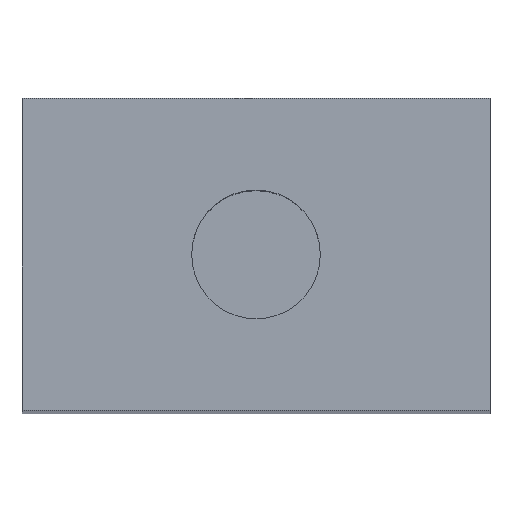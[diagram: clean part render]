
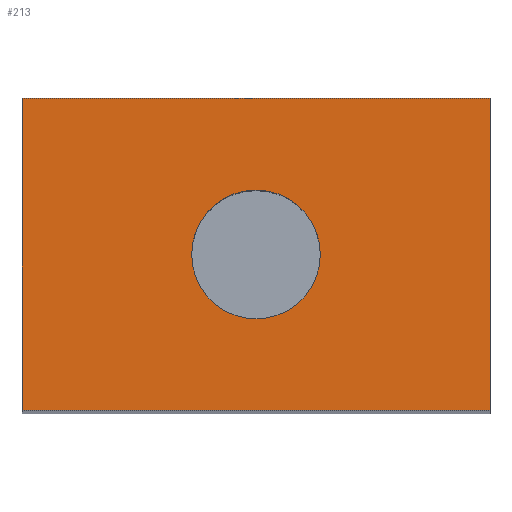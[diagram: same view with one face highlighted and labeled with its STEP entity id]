
A CAD part, top view. The second image highlights one B-rep face of the part: STEP entity #213.
In plain terms, the highlighted planar face has unit normal (0, 0, 1).
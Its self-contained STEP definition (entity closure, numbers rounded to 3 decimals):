
#24 = VERTEX_POINT('',#25);
#25 = CARTESIAN_POINT('',(-14.,22.8,53.2));
#32 = PLANE('',#33);
#33 = AXIS2_PLACEMENT_3D('',#34,#35,#36);
#34 = CARTESIAN_POINT('',(-14.,22.8,8.));
#35 = DIRECTION('',(1.,0.,0.));
#36 = DIRECTION('',(0.,0.,1.));
#44 = PLANE('',#45);
#45 = AXIS2_PLACEMENT_3D('',#46,#47,#48);
#46 = CARTESIAN_POINT('',(-14.,22.8,8.));
#47 = DIRECTION('',(0.,1.,0.));
#48 = DIRECTION('',(0.,0.,1.));
#85 = VERTEX_POINT('',#86);
#86 = CARTESIAN_POINT('',(-14.,30.8,53.2));
#100 = PLANE('',#101);
#101 = AXIS2_PLACEMENT_3D('',#102,#103,#104);
#102 = CARTESIAN_POINT('',(-14.,30.8,8.));
#103 = DIRECTION('',(0.,1.,0.));
#104 = DIRECTION('',(0.,0.,1.));
#112 = EDGE_CURVE('',#24,#85,#113,.T.);
#113 = SURFACE_CURVE('',#114,(#118,#125),.PCURVE_S1.);
#114 = LINE('',#115,#116);
#115 = CARTESIAN_POINT('',(-14.,22.8,53.2));
#116 = VECTOR('',#117,1.);
#117 = DIRECTION('',(0.,1.,0.));
#118 = PCURVE('',#32,#119);
#119 = DEFINITIONAL_REPRESENTATION('',(#120),#124);
#120 = LINE('',#121,#122);
#121 = CARTESIAN_POINT('',(45.2,0.));
#122 = VECTOR('',#123,1.);
#123 = DIRECTION('',(0.,-1.));
#124 = ( GEOMETRIC_REPRESENTATION_CONTEXT(2) 
PARAMETRIC_REPRESENTATION_CONTEXT() REPRESENTATION_CONTEXT('2D SPACE',''
  ) );
#125 = PCURVE('',#126,#131);
#126 = PLANE('',#127);
#127 = AXIS2_PLACEMENT_3D('',#128,#129,#130);
#128 = CARTESIAN_POINT('',(-14.,22.8,53.2));
#129 = DIRECTION('',(0.,0.,1.));
#130 = DIRECTION('',(1.,0.,0.));
#131 = DEFINITIONAL_REPRESENTATION('',(#132),#136);
#132 = LINE('',#133,#134);
#133 = CARTESIAN_POINT('',(0.,0.));
#134 = VECTOR('',#135,1.);
#135 = DIRECTION('',(0.,1.));
#136 = ( GEOMETRIC_REPRESENTATION_CONTEXT(2) 
PARAMETRIC_REPRESENTATION_CONTEXT() REPRESENTATION_CONTEXT('2D SPACE',''
  ) );
#165 = EDGE_CURVE('',#24,#166,#168,.T.);
#166 = VERTEX_POINT('',#167);
#167 = CARTESIAN_POINT('',(-2.,22.8,53.2));
#168 = SURFACE_CURVE('',#169,(#173,#180),.PCURVE_S1.);
#169 = LINE('',#170,#171);
#170 = CARTESIAN_POINT('',(-14.,22.8,53.2));
#171 = VECTOR('',#172,1.);
#172 = DIRECTION('',(1.,0.,0.));
#173 = PCURVE('',#44,#174);
#174 = DEFINITIONAL_REPRESENTATION('',(#175),#179);
#175 = LINE('',#176,#177);
#176 = CARTESIAN_POINT('',(45.2,0.));
#177 = VECTOR('',#178,1.);
#178 = DIRECTION('',(0.,1.));
#179 = ( GEOMETRIC_REPRESENTATION_CONTEXT(2) 
PARAMETRIC_REPRESENTATION_CONTEXT() REPRESENTATION_CONTEXT('2D SPACE',''
  ) );
#180 = PCURVE('',#126,#181);
#181 = DEFINITIONAL_REPRESENTATION('',(#182),#186);
#182 = LINE('',#183,#184);
#183 = CARTESIAN_POINT('',(0.,0.));
#184 = VECTOR('',#185,1.);
#185 = DIRECTION('',(1.,0.));
#186 = ( GEOMETRIC_REPRESENTATION_CONTEXT(2) 
PARAMETRIC_REPRESENTATION_CONTEXT() REPRESENTATION_CONTEXT('2D SPACE',''
  ) );
#202 = PLANE('',#203);
#203 = AXIS2_PLACEMENT_3D('',#204,#205,#206);
#204 = CARTESIAN_POINT('',(-2.,22.8,8.));
#205 = DIRECTION('',(1.,0.,0.));
#206 = DIRECTION('',(0.,0.,1.));
#213 = ADVANCED_FACE('',(#214,#262),#126,.T.);
#214 = FACE_BOUND('',#215,.T.);
#215 = EDGE_LOOP('',(#216,#217,#218,#241));
#216 = ORIENTED_EDGE('',*,*,#112,.F.);
#217 = ORIENTED_EDGE('',*,*,#165,.T.);
#218 = ORIENTED_EDGE('',*,*,#219,.T.);
#219 = EDGE_CURVE('',#166,#220,#222,.T.);
#220 = VERTEX_POINT('',#221);
#221 = CARTESIAN_POINT('',(-2.,30.8,53.2));
#222 = SURFACE_CURVE('',#223,(#227,#234),.PCURVE_S1.);
#223 = LINE('',#224,#225);
#224 = CARTESIAN_POINT('',(-2.,22.8,53.2));
#225 = VECTOR('',#226,1.);
#226 = DIRECTION('',(0.,1.,0.));
#227 = PCURVE('',#126,#228);
#228 = DEFINITIONAL_REPRESENTATION('',(#229),#233);
#229 = LINE('',#230,#231);
#230 = CARTESIAN_POINT('',(12.,0.));
#231 = VECTOR('',#232,1.);
#232 = DIRECTION('',(0.,1.));
#233 = ( GEOMETRIC_REPRESENTATION_CONTEXT(2) 
PARAMETRIC_REPRESENTATION_CONTEXT() REPRESENTATION_CONTEXT('2D SPACE',''
  ) );
#234 = PCURVE('',#202,#235);
#235 = DEFINITIONAL_REPRESENTATION('',(#236),#240);
#236 = LINE('',#237,#238);
#237 = CARTESIAN_POINT('',(45.2,0.));
#238 = VECTOR('',#239,1.);
#239 = DIRECTION('',(0.,-1.));
#240 = ( GEOMETRIC_REPRESENTATION_CONTEXT(2) 
PARAMETRIC_REPRESENTATION_CONTEXT() REPRESENTATION_CONTEXT('2D SPACE',''
  ) );
#241 = ORIENTED_EDGE('',*,*,#242,.F.);
#242 = EDGE_CURVE('',#85,#220,#243,.T.);
#243 = SURFACE_CURVE('',#244,(#248,#255),.PCURVE_S1.);
#244 = LINE('',#245,#246);
#245 = CARTESIAN_POINT('',(-14.,30.8,53.2));
#246 = VECTOR('',#247,1.);
#247 = DIRECTION('',(1.,0.,0.));
#248 = PCURVE('',#126,#249);
#249 = DEFINITIONAL_REPRESENTATION('',(#250),#254);
#250 = LINE('',#251,#252);
#251 = CARTESIAN_POINT('',(0.,8.));
#252 = VECTOR('',#253,1.);
#253 = DIRECTION('',(1.,0.));
#254 = ( GEOMETRIC_REPRESENTATION_CONTEXT(2) 
PARAMETRIC_REPRESENTATION_CONTEXT() REPRESENTATION_CONTEXT('2D SPACE',''
  ) );
#255 = PCURVE('',#100,#256);
#256 = DEFINITIONAL_REPRESENTATION('',(#257),#261);
#257 = LINE('',#258,#259);
#258 = CARTESIAN_POINT('',(45.2,0.));
#259 = VECTOR('',#260,1.);
#260 = DIRECTION('',(0.,1.));
#261 = ( GEOMETRIC_REPRESENTATION_CONTEXT(2) 
PARAMETRIC_REPRESENTATION_CONTEXT() REPRESENTATION_CONTEXT('2D SPACE',''
  ) );
#262 = FACE_BOUND('',#263,.T.);
#263 = EDGE_LOOP('',(#264));
#264 = ORIENTED_EDGE('',*,*,#265,.F.);
#265 = EDGE_CURVE('',#266,#266,#268,.T.);
#266 = VERTEX_POINT('',#267);
#267 = CARTESIAN_POINT('',(-6.35,26.8,53.2));
#268 = SURFACE_CURVE('',#269,(#274,#281),.PCURVE_S1.);
#269 = CIRCLE('',#270,1.65);
#270 = AXIS2_PLACEMENT_3D('',#271,#272,#273);
#271 = CARTESIAN_POINT('',(-8.,26.8,53.2));
#272 = DIRECTION('',(0.,0.,1.));
#273 = DIRECTION('',(1.,0.,0.));
#274 = PCURVE('',#126,#275);
#275 = DEFINITIONAL_REPRESENTATION('',(#276),#280);
#276 = CIRCLE('',#277,1.65);
#277 = AXIS2_PLACEMENT_2D('',#278,#279);
#278 = CARTESIAN_POINT('',(6.,4.));
#279 = DIRECTION('',(1.,0.));
#280 = ( GEOMETRIC_REPRESENTATION_CONTEXT(2) 
PARAMETRIC_REPRESENTATION_CONTEXT() REPRESENTATION_CONTEXT('2D SPACE',''
  ) );
#281 = PCURVE('',#282,#287);
#282 = CYLINDRICAL_SURFACE('',#283,1.65);
#283 = AXIS2_PLACEMENT_3D('',#284,#285,#286);
#284 = CARTESIAN_POINT('',(-8.,26.8,45.2));
#285 = DIRECTION('',(-0.,-0.,-1.));
#286 = DIRECTION('',(1.,0.,0.));
#287 = DEFINITIONAL_REPRESENTATION('',(#288),#292);
#288 = LINE('',#289,#290);
#289 = CARTESIAN_POINT('',(-0.,-8.));
#290 = VECTOR('',#291,1.);
#291 = DIRECTION('',(-1.,0.));
#292 = ( GEOMETRIC_REPRESENTATION_CONTEXT(2) 
PARAMETRIC_REPRESENTATION_CONTEXT() REPRESENTATION_CONTEXT('2D SPACE',''
  ) );
